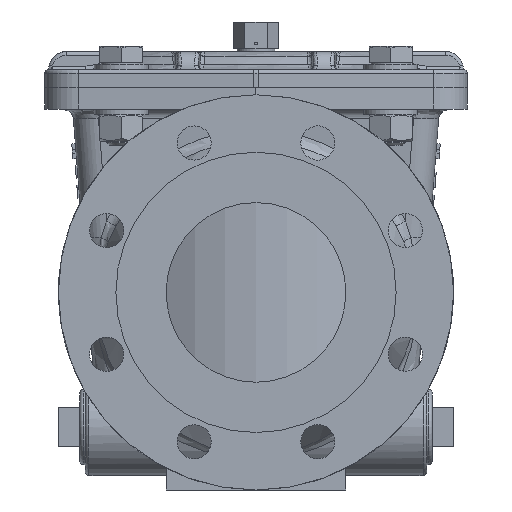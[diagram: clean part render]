
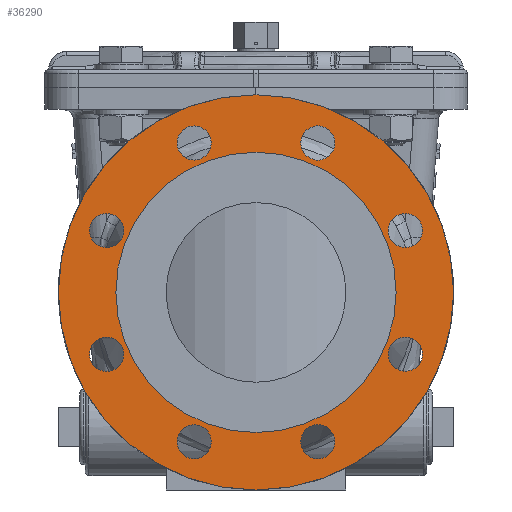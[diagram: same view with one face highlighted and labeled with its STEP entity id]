
A CAD part, front view. The second image highlights one B-rep face of the part: STEP entity #36290.
In plain terms, the highlighted planar face has unit normal (0, -1, 0) as drawn and (-1, 0, 0) by its records, which use the part's own axes.
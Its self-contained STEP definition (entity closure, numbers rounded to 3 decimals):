
#31354=CARTESIAN_POINT('',(-147.0,-76.432,-27.724));
#31355=VERTEX_POINT('',#31354);
#31356=CARTESIAN_POINT('',(-147.0,-83.149,-34.442));
#31357=DIRECTION('',(1.0,0.,0.));
#31358=DIRECTION('',(0.,0.707,0.707));
#31359=AXIS2_PLACEMENT_3D('',#31356,#31357,#31358);
#31360=CIRCLE('',#31359,9.5);
#31361=EDGE_CURVE('',#31355,#31355,#31360,.T.);
#31374=CARTESIAN_POINT('',(-147.0,-73.649,34.442));
#31375=VERTEX_POINT('',#31374);
#31376=CARTESIAN_POINT('',(-147.0,-83.149,34.442));
#31377=DIRECTION('',(1.0,0.0,0.0));
#31378=DIRECTION('',(0.0,1.0,0.0));
#31379=AXIS2_PLACEMENT_3D('',#31376,#31377,#31378);
#31380=CIRCLE('',#31379,9.5);
#31381=EDGE_CURVE('',#31375,#31375,#31380,.T.);
#31394=CARTESIAN_POINT('',(-147.0,-27.724,76.432));
#31395=VERTEX_POINT('',#31394);
#31396=CARTESIAN_POINT('',(-147.0,-34.442,83.149));
#31397=DIRECTION('',(1.,0.,0.));
#31398=DIRECTION('',(0.,0.707,-0.707));
#31399=AXIS2_PLACEMENT_3D('',#31396,#31397,#31398);
#31400=CIRCLE('',#31399,9.5);
#31401=EDGE_CURVE('',#31395,#31395,#31400,.T.);
#31414=CARTESIAN_POINT('',(-147.,34.442,73.649));
#31415=VERTEX_POINT('',#31414);
#31416=CARTESIAN_POINT('',(-147.0,34.442,83.149));
#31417=DIRECTION('',(1.0,0.0,0.0));
#31418=DIRECTION('',(0.0,0.0,-1.0));
#31419=AXIS2_PLACEMENT_3D('',#31416,#31417,#31418);
#31420=CIRCLE('',#31419,9.5);
#31421=EDGE_CURVE('',#31415,#31415,#31420,.T.);
#31434=CARTESIAN_POINT('',(-147.,76.432,27.724));
#31435=VERTEX_POINT('',#31434);
#31436=CARTESIAN_POINT('',(-147.,83.149,34.442));
#31437=DIRECTION('',(1.0,0.,0.));
#31438=DIRECTION('',(0.,-0.707,-0.707));
#31439=AXIS2_PLACEMENT_3D('',#31436,#31437,#31438);
#31440=CIRCLE('',#31439,9.5);
#31441=EDGE_CURVE('',#31435,#31435,#31440,.T.);
#31454=CARTESIAN_POINT('',(-147.,73.649,-34.442));
#31455=VERTEX_POINT('',#31454);
#31456=CARTESIAN_POINT('',(-147.,83.149,-34.442));
#31457=DIRECTION('',(1.0,0.0,0.0));
#31458=DIRECTION('',(0.0,-1.0,0.0));
#31459=AXIS2_PLACEMENT_3D('',#31456,#31457,#31458);
#31460=CIRCLE('',#31459,9.5);
#31461=EDGE_CURVE('',#31455,#31455,#31460,.T.);
#31474=CARTESIAN_POINT('',(-147.,27.724,-76.432));
#31475=VERTEX_POINT('',#31474);
#31476=CARTESIAN_POINT('',(-147.,34.442,-83.149));
#31477=DIRECTION('',(1.0,0.,0.));
#31478=DIRECTION('',(0.,-0.707,0.707));
#31479=AXIS2_PLACEMENT_3D('',#31476,#31477,#31478);
#31480=CIRCLE('',#31479,9.5);
#31481=EDGE_CURVE('',#31475,#31475,#31480,.T.);
#31494=CARTESIAN_POINT('',(-147.0,-34.442,-73.649));
#31495=VERTEX_POINT('',#31494);
#31496=CARTESIAN_POINT('',(-147.0,-34.442,-83.149));
#31497=DIRECTION('',(1.0,0.0,0.0));
#31498=DIRECTION('',(0.0,0.0,1.0));
#31499=AXIS2_PLACEMENT_3D('',#31496,#31497,#31498);
#31500=CIRCLE('',#31499,9.5);
#31501=EDGE_CURVE('',#31495,#31495,#31500,.T.);
#36232=CARTESIAN_POINT('',(-147.0,78.0,0.0));
#36233=VERTEX_POINT('',#36232);
#36234=CARTESIAN_POINT('',(-147.0,0.,0.0));
#36235=DIRECTION('',(1.0,0.0,0.0));
#36236=DIRECTION('',(0.0,1.0,0.0));
#36237=AXIS2_PLACEMENT_3D('',#36234,#36235,#36236);
#36238=CIRCLE('',#36237,78.);
#36239=EDGE_CURVE('',#36233,#36233,#36238,.T.);
#36247=CARTESIAN_POINT('',(-147.,94.,0.0));
#36248=DIRECTION('',(-1.0,0.0,0.0));
#36249=DIRECTION('',(0.0,0.0,1.0));
#36250=AXIS2_PLACEMENT_3D('',#36247,#36248,#36249);
#36251=PLANE('',#36250);
#36252=CARTESIAN_POINT('',(-147.,110.,0.0));
#36253=VERTEX_POINT('',#36252);
#36254=CARTESIAN_POINT('',(-147.0,0.,0.0));
#36255=DIRECTION('',(1.0,0.0,0.0));
#36256=DIRECTION('',(0.0,1.0,0.0));
#36257=AXIS2_PLACEMENT_3D('',#36254,#36255,#36256);
#36258=CIRCLE('',#36257,110.);
#36259=EDGE_CURVE('',#36253,#36253,#36258,.T.);
#36260=ORIENTED_EDGE('',*,*,#36259,.F.);
#36261=EDGE_LOOP('',(#36260));
#36262=FACE_OUTER_BOUND('',#36261,.T.);
#36263=ORIENTED_EDGE('',*,*,#31361,.T.);
#36264=EDGE_LOOP('',(#36263));
#36265=FACE_BOUND('',#36264,.T.);
#36266=ORIENTED_EDGE('',*,*,#31381,.T.);
#36267=EDGE_LOOP('',(#36266));
#36268=FACE_BOUND('',#36267,.T.);
#36269=ORIENTED_EDGE('',*,*,#31401,.T.);
#36270=EDGE_LOOP('',(#36269));
#36271=FACE_BOUND('',#36270,.T.);
#36272=ORIENTED_EDGE('',*,*,#31421,.T.);
#36273=EDGE_LOOP('',(#36272));
#36274=FACE_BOUND('',#36273,.T.);
#36275=ORIENTED_EDGE('',*,*,#31441,.T.);
#36276=EDGE_LOOP('',(#36275));
#36277=FACE_BOUND('',#36276,.T.);
#36278=ORIENTED_EDGE('',*,*,#31461,.T.);
#36279=EDGE_LOOP('',(#36278));
#36280=FACE_BOUND('',#36279,.T.);
#36281=ORIENTED_EDGE('',*,*,#31481,.T.);
#36282=EDGE_LOOP('',(#36281));
#36283=FACE_BOUND('',#36282,.T.);
#36284=ORIENTED_EDGE('',*,*,#31501,.T.);
#36285=EDGE_LOOP('',(#36284));
#36286=FACE_BOUND('',#36285,.T.);
#36287=ORIENTED_EDGE('',*,*,#36239,.T.);
#36288=EDGE_LOOP('',(#36287));
#36289=FACE_BOUND('',#36288,.T.);
#36290=ADVANCED_FACE('',(#36262,#36265,#36268,#36271,#36274,#36277,#36280,#36283,#36286,#36289),#36251,.T.);
